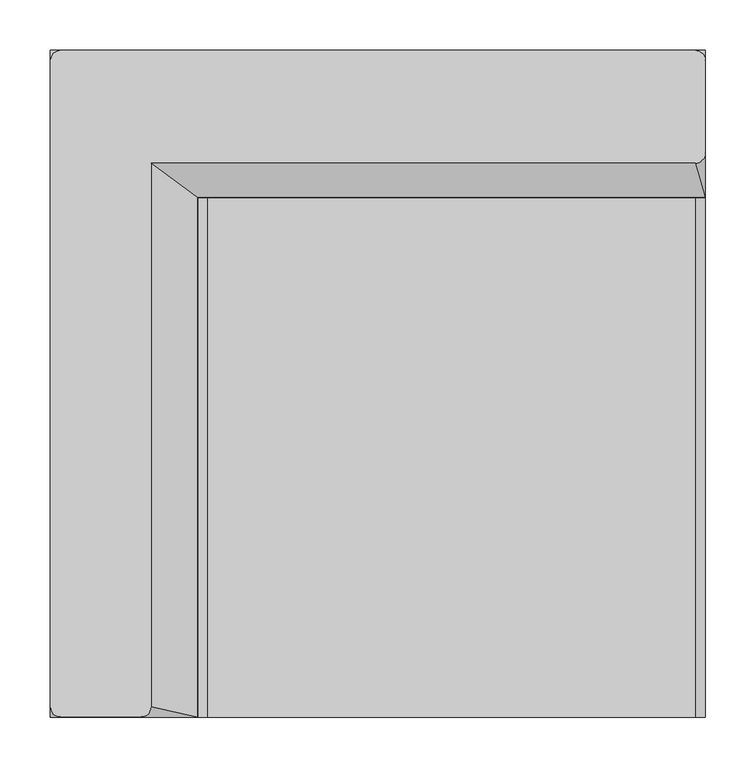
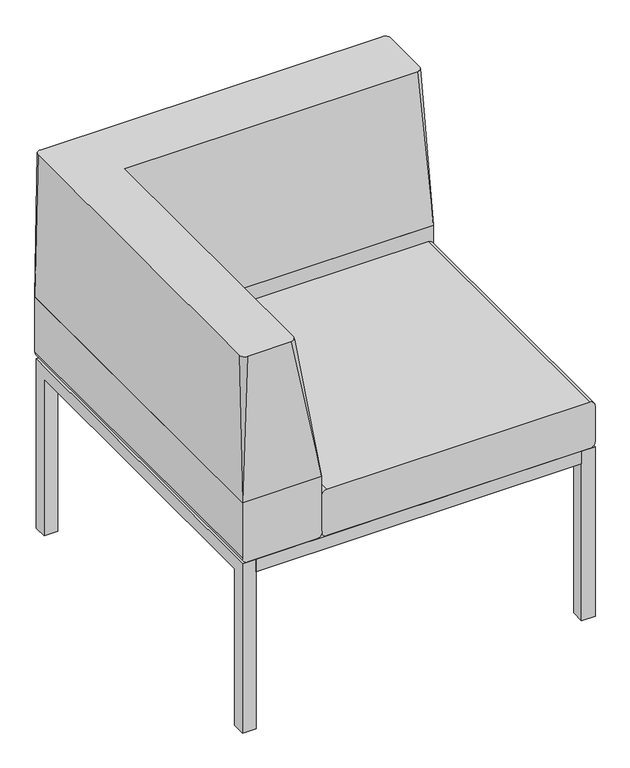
"""IFC4 building model written with IfcOpenShell, lengths in millimetres: furniture geometry, Sofá Modular - COLAB - SM 03 : Sofá Modular - COLAB - SM 03."""

from ifc_helpers import new_model, si_unit, point, frame, frame_2d, origin, place, context, project, spatial, polyline, circle_curve, trimmed, segment, composite_curve, outline, extrude, source, transform, mapped, element, save
from ifc_brep_helpers import plane_surface, spline_surface, advanced_brep


def furniture_9de6bddc(model_context):
    return source(origin(), model_context, "Body", "SolidModel", [
        advanced_brep(
        [(650.0, 652.1, 730.0), (640.0, 662.1, 730.0), (10.0000005, 662.1, 730.0), (0.0, 652.0999995, 730.0), (0.0, 10.0000028, 730.0), (10.0000027, 0.0, 730.0), (89.9999972, 0.0, 730.0), (100.0, 10.0000028, 730.0), (100.0, 550.0000028, 730.0), (640.0000022, 550.0000028, 730.0), (650.0, 560.0000006, 730.0), (650.000005, 662.1, 448.3189624), (650.000005, 515.9708313, 448.3189624), (146.1202001, 515.9708313, 448.3189624), (146.1202001, 0.0, 448.3189624), (0.0, 0.0, 448.3189624), (0.0, 662.1, 448.3189624)],
        [
            (0, 1, circle_curve(frame((640.0, 652.1, 730.0), z_axis=(0.0, 0.0, 1.0), x_axis=(1.0, 0.0, 0.0)), 10.0)),
            (1, 2),
            (2, 3, circle_curve(frame((10.0000005, 652.0999995, 730.0), z_axis=(0.0, 0.0, 1.0), x_axis=(1.0, 0.0, 0.0)), 10.0000005)),
            (3, 4),
            (4, 5, circle_curve(frame((10.0000027, 10.0000028, 730.0), z_axis=(0.0, 0.0, 1.0), x_axis=(1.0, 0.0, 0.0)), 10.0000028)),
            (5, 6),
            (6, 7, circle_curve(frame((89.9999972, 10.0000028, 730.0), z_axis=(0.0, 0.0, 1.0), x_axis=(1.0, 0.0, 0.0)), 10.0000028)),
            (7, 8),
            (8, 9),
            (9, 10, circle_curve(frame((640.0000022, 560.0000006, 730.0), z_axis=(0.0, 0.0, 1.0), x_axis=(1.0, 0.0, 0.0)), 9.9999978)),
            (10, 0),
            (11, 12),
            (12, 13),
            (13, 14),
            (14, 15),
            (15, 16),
            (16, 11),
            (0, 11),
            (11, 1),
            (16, 2),
            (16, 3),
            (15, 4),
            (15, 5),
            (14, 6),
            (14, 7),
            (13, 8),
            (12, 9),
            (12, 10),
        ],
        [
            plane_surface(frame((262.7272729, 391.6727283, 730.0), z_axis=(0.0, 0.0, 1.0), x_axis=(0.0, -1.0, 0.0))),
            plane_surface(frame((265.3734017, 392.6902771, 448.3189624), z_axis=(0.0, 0.0, -1.0), x_axis=(0.0, -1.0, 0.0))),
            spline_surface(2, 1, [[(650.000005, 662.1, 448.3189624), (650.0, 652.1, 730.0)], [(650.000005, 662.1, 448.3189624), (650.0, 662.1, 730.0)], [(650.000005, 662.1, 448.3189624), (640.0, 662.1, 730.0)]], [3, 3], [2, 2], [0.0, 1.0], [0.0, 1.0], weights=[[1.0, 1.0], [0.7071067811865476, 0.7071067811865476], [1.0, 1.0]]),
            plane_surface(frame((325.0000025, 662.1, 448.3189624), z_axis=(0.0, 1.0, 0.0), x_axis=(-1.0, 0.0, 0.0))),
            spline_surface(2, 1, [[(0.0, 662.1, 448.3189624), (10.0000005, 662.1, 730.0)], [(0.0, 662.1, 448.3189624), (-5.5067062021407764e-14, 662.1, 730.0)], [(0.0, 662.1, 448.3189624), (0.0, 652.0999995, 730.0)]], [3, 3], [2, 2], [0.0, 1.0], [0.0, 1.0], weights=[[1.0, 1.0], [0.7071067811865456, 0.7071067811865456], [1.0, 1.0]]),
            plane_surface(frame((0.0, 331.05, 448.3189624), z_axis=(-1.0, 0.0, 0.0), x_axis=(0.0, -1.0, 0.0))),
            spline_surface(2, 1, [[(0.0, 0.0, 448.3189624), (0.0, 10.0000028, 730.0)], [(0.0, 0.0, 448.3189624), (1.0000000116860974e-07, 1.0000000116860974e-07, 730.0)], [(0.0, 0.0, 448.3189624), (10.0000027, 0.0, 730.0)]], [3, 3], [2, 2], [0.0, 1.0], [0.0, 1.0], weights=[[1.0, 1.0], [0.7071067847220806, 0.7071067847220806], [1.0, 1.0]]),
            plane_surface(frame((73.0601001, 0.0, 448.3189624), z_axis=(0.0, -1.0, 0.0), x_axis=(1.0, 0.0, 0.0))),
            spline_surface(2, 1, [[(146.1202001, 0.0, 448.3189624), (89.9999972, 0.0, 730.0)], [(146.1202001, 0.0, 448.3189624), (100.0, 1.7763568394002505e-15, 730.0)], [(146.1202001, 0.0, 448.3189624), (100.0, 10.0000028, 730.0)]], [3, 3], [2, 2], [0.0, 1.0], [0.0, 1.0], weights=[[1.0, 1.0], [0.7071067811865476, 0.7071067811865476], [1.0, 1.0]]),
            plane_surface(frame((146.1202001, 257.9854156, 448.3189624), z_axis=(0.9868595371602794, 0.0, 0.1615804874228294), x_axis=(0.0, 1.0, 0.0))),
            plane_surface(frame((398.0601025, 515.9708313, 448.3189624), z_axis=(0.0, -0.9927816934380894, 0.11993543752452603), x_axis=(1.0, 0.0, 0.0))),
            spline_surface(2, 1, [[(650.000005, 515.9708313, 448.3189624), (640.0000022, 550.0000028, 730.0)], [(650.000005, 515.9708313, 448.3189624), (650.0000000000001, 550.0000027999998, 730.0)], [(650.000005, 515.9708313, 448.3189624), (650.0, 560.0000006, 730.0)]], [3, 3], [2, 2], [0.0, 1.0], [0.0, 1.0], weights=[[1.0, 1.0], [0.7071067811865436, 0.7071067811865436], [1.0, 1.0]]),
            plane_surface(frame((650.000005, 589.0354156, 448.3189624), z_axis=(0.9999999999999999, 0.0, 1.7732010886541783e-08), x_axis=(0.0, 1.0, 0.0))),
        ],
        [
            (0, [[1, 2, 3, 4, 5, 6, 7, 8, 9, 10, 11]]),
            (1, [[12, 13, 14, 15, 16, 17]]),
            (2, [[-1, 18, 19]]),
            (3, [[-17, 20, -2, -19]]),
            (4, [[-3, -20, 21]]),
            (5, [[-16, 22, -4, -21]]),
            (6, [[-5, -22, 23]]),
            (7, [[-15, 24, -6, -23]]),
            (8, [[-7, -24, 25]]),
            (9, [[-14, 26, -8, -25]]),
            (10, [[-13, 27, -9, -26]]),
            (11, [[-10, -27, 28]]),
            (12, [[-12, -18, -11, -28]]),
        ],
    ),
        extrude(outline(composite_curve([segment(trimmed(circle_curve(frame_2d((340.0000003, 10.0000123)), 10.0000123), [point((340.0000003, 0.0))], [point((329.999988, 10.0000123))], False, "CARTESIAN"), True, "CONTINUOUS"), segment(polyline([(329.999988, 10.0000123), (329.999988, 136.8922049)]), True, "CONTINUOUS"), segment(trimmed(circle_curve(frame_2d((339.9979833, 136.8922049)), 9.9979953), [point((329.999988, 136.8922049))], [point((343.8455817, 146.1202001))], False, "CARTESIAN"), True, "CONTINUOUS"), segment(polyline([(343.8455817, 146.1202001), (448.3189624, 146.1202001), (448.3189624, 0.0), (340.0000003, 0.0)]), True, "CONTINUOUS")], self_intersect=False)), frame((0.0, 0.0, 0.0), z_axis=(0.0, 1.0, 0.0), x_axis=(0.0, 0.0, 1.0)), (0.0, 0.0, 1.0), 662.1),
        extrude(outline(composite_curve([segment(polyline([(652.0910191, 329.999988), (525.1988265, 329.999988)]), True, "CONTINUOUS"), segment(trimmed(circle_curve(frame_2d((525.1988265, 339.9979833)), 9.9979953), [point((525.1988265, 329.999988))], [point((515.9708313, 343.8455817))], False, "CARTESIAN"), True, "CONTINUOUS"), segment(polyline([(515.9708313, 343.8455817), (515.9708313, 448.3189624), (662.0910314, 448.3189624), (662.0910314, 340.0000003)]), True, "CONTINUOUS"), segment(trimmed(circle_curve(frame_2d((652.0910191, 340.0000003)), 10.0000123), [point((662.0910314, 340.0000003))], [point((652.0910191, 329.999988))], False, "CARTESIAN"), True, "CONTINUOUS")], self_intersect=False)), frame((146.1202001, 0.0, 0.0), z_axis=(1.0, 0.0, 0.0), x_axis=(0.0, 1.0, 0.0)), (0.0, 0.0, 1.0), 503.8798049),
        extrude(outline(polyline([(75.263, 583.029965), (25.0000002, 583.029965), (25.0000002, 633.0299654), (75.263, 633.0299654), (75.263, 583.029965)])), frame((0.0, 0.0, 324.9999997), z_axis=(0.0, 0.0, 1.0), x_axis=(1.0, 0.0, 0.0)), (0.0, 0.0, 1.0), 4.9999883),
        extrude(outline(polyline([(75.263, 75.0000004), (75.263, 25.0), (25.0000002, 25.0), (25.0000002, 75.0000004), (75.263, 75.0000004)])), frame((0.0, 0.0, 324.9999997), z_axis=(0.0, 0.0, 1.0), x_axis=(1.0, 0.0, 0.0)), (0.0, 0.0, 1.0), 4.9999883),
        extrude(outline(composite_curve([segment(polyline([(419.9999997, 640.0), (419.9999997, 156.1202001)]), True, "CONTINUOUS"), segment(trimmed(circle_curve(frame_2d((409.9999997, 156.1202001)), 10.0), [point((419.9999997, 156.1202001))], [point((409.9999997, 146.1202001))], False, "CARTESIAN"), True, "CONTINUOUS"), segment(polyline([(409.9999997, 146.1202001), (340.0000475, 146.1202001)]), True, "CONTINUOUS"), segment(trimmed(circle_curve(frame_2d((340.0000475, 156.1202597)), 10.0000596), [point((340.0000475, 146.1202001))], [point((329.999988, 156.1202597))], False, "CARTESIAN"), True, "CONTINUOUS"), segment(polyline([(329.999988, 156.1202597), (329.999988, 639.9999927)]), True, "CONTINUOUS"), segment(trimmed(circle_curve(frame_2d((340.0000003, 639.9999927)), 10.0000123), [point((329.999988, 639.9999927))], [point((340.0000003, 650.000005))], False, "CARTESIAN"), True, "CONTINUOUS"), segment(polyline([(340.0000003, 650.000005), (409.9999948, 650.000005)]), True, "CONTINUOUS"), segment(trimmed(circle_curve(frame_2d((409.9999948, 640.0)), 10.000005), [point((409.9999948, 650.000005))], [point((419.9999997, 640.0))], False, "CARTESIAN"), True, "CONTINUOUS")], self_intersect=False)), frame((0.0, 0.0, 0.0), z_axis=(0.0, 1.0, 0.0), x_axis=(0.0, 0.0, 1.0)), (0.0, 0.0, 1.0), 515.9708313),
        extrude(outline(polyline([(574.737005, 583.029965), (574.737005, 633.0299654), (625.0000048, 633.0299654), (625.0000048, 583.029965), (574.737005, 583.029965)])), frame((0.0, 0.0, 324.9999997), z_axis=(0.0, 0.0, 1.0), x_axis=(1.0, 0.0, 0.0)), (0.0, 0.0, 1.0), 4.9999883),
        extrude(outline(polyline([(574.737005, 75.0000004), (625.0000048, 75.0000004), (625.0000048, 25.0), (574.737005, 25.0), (574.737005, 75.0000004)])), frame((0.0, 0.0, 324.9999997), z_axis=(0.0, 0.0, 1.0), x_axis=(1.0, 0.0, 0.0)), (0.0, 0.0, 1.0), 4.9999883),
        extrude(outline(polyline([(312.5000025, 25.0), (312.5000025, 633.0299654), (337.5000025, 633.0299654), (337.5000025, 25.0), (312.5000025, 25.0)])), frame((0.0, 0.0, 304.9999878), z_axis=(0.0, 0.0, 1.0), x_axis=(1.0, 0.0, 0.0)), (0.0, 0.0, 1.0), 25.0000002),
        extrude(outline(polyline([(625.0000048, 0.0), (25.0000002, 0.0), (25.0000002, 25.0), (625.0000048, 25.0), (625.0000048, 0.0)])), frame((0.0, 0.0, 304.9999878), z_axis=(0.0, 0.0, 1.0), x_axis=(1.0, 0.0, 0.0)), (0.0, 0.0, 1.0), 25.0000002),
        extrude(outline(polyline([(25.0, 0.0), (0.0, 0.0), (0.0, 329.999988), (658.0299654, 329.999988), (658.0299654, 0.0), (633.0299654, 0.0), (633.0299654, 304.9999878), (25.0, 304.9999878), (25.0, 0.0)])), frame((625.0000048, 0.0, 0.0), z_axis=(1.0, 0.0, 0.0), x_axis=(0.0, 1.0, 0.0)), (0.0, 0.0, 1.0), 25.0000002),
        extrude(outline(polyline([(25.0000002, 658.0299654), (625.0000048, 658.0299654), (625.0000048, 633.0299654), (25.0000002, 633.0299654), (25.0000002, 658.0299654)])), frame((0.0, 0.0, 304.9999878), z_axis=(0.0, 0.0, 1.0), x_axis=(1.0, 0.0, 0.0)), (0.0, 0.0, 1.0), 25.0000002),
        extrude(outline(polyline([(25.0, 0.0), (0.0, 0.0), (0.0, 329.999988), (658.0299654, 329.999988), (658.0299654, 0.0), (633.0299654, 0.0), (633.0299654, 304.9999878), (25.0, 304.9999878), (25.0, 0.0)])), frame((0.0, 0.0, 0.0), z_axis=(1.0, 0.0, 0.0), x_axis=(0.0, 1.0, 0.0)), (0.0, 0.0, 1.0), 25.0000002),
    ])


if __name__ == "__main__":
    model = new_model("IFC4")
    model_context = context("Model", 3, world=origin())
    ifc_project = project(units=[si_unit("LENGTHUNIT", "METRE", prefix="MILLI")], contexts=[model_context])
    site = spatial("IfcSite", under=ifc_project)
    building = spatial("IfcBuilding", under=site)
    placement = place(None, origin())
    furniture_shape = furniture_9de6bddc(model_context)
    element("IfcFurniture", 1, ObjectType="Sofá Modular - COLAB - SM 03 : Sofá Modular - COLAB - SM 03", at=placement, inside=building, context=model_context, shape_type="MappedRepresentation", body=[
        mapped(furniture_shape, transform((0.0, 0.0, 0.0), x_axis=(1.0, 0.0, 0.0), y_axis=(0.0, 1.0, 0.0), z_axis=(0.0, 0.0, 1.0))),
    ])
    save(model, "model.ifc")
